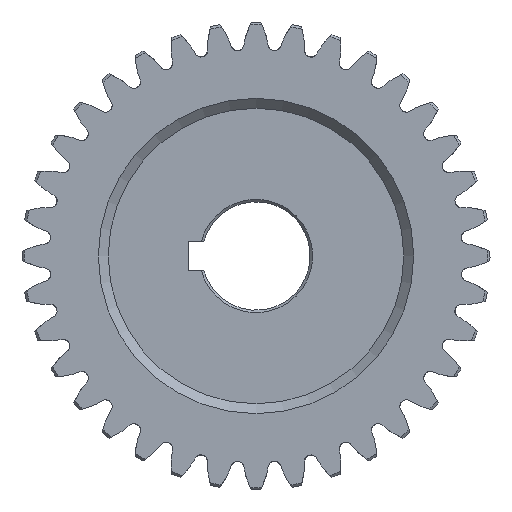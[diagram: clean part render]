
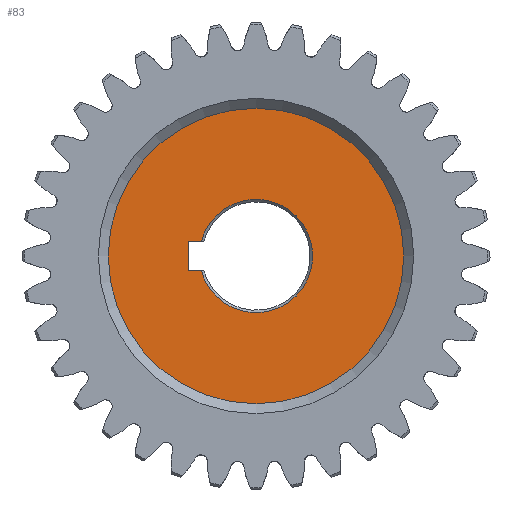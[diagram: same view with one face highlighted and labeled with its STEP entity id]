
A CAD part, left-side view. The second image highlights one B-rep face of the part: STEP entity #83.
In plain terms, the highlighted planar face has unit normal (-1, 0, 0).
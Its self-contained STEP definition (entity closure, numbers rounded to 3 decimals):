
#83=ADVANCED_FACE('',(#2828,#2830),#2832,.T.);
#2828=FACE_BOUND('',#2829,.T.);
#2829=EDGE_LOOP('',(#4824));
#2830=FACE_BOUND('',#2831,.T.);
#2831=EDGE_LOOP('',(#4825,#4826,#4827,#4828,#4829,#4830));
#2832=PLANE('',#2833);
#2833=AXIS2_PLACEMENT_3D('',#2834,#2835,#2836);
#2834=CARTESIAN_POINT('',(8.,0.,0.));
#2835=DIRECTION('',(-1.,-0.,-0.));
#2836=DIRECTION('',(0.,0.,-1.));
#4824=ORIENTED_EDGE('',*,*,#7763,.T.);
#4825=ORIENTED_EDGE('',*,*,#7764,.T.);
#4826=ORIENTED_EDGE('',*,*,#7756,.F.);
#4827=ORIENTED_EDGE('',*,*,#7765,.T.);
#4828=ORIENTED_EDGE('',*,*,#7766,.T.);
#4829=ORIENTED_EDGE('',*,*,#7767,.T.);
#4830=ORIENTED_EDGE('',*,*,#7768,.T.);
#7756=EDGE_CURVE('',#8656,#8651,#8658,.F.);
#7763=EDGE_CURVE('',#8670,#8670,#8671,.T.);
#7764=EDGE_CURVE('',#8672,#8651,#8673,.F.);
#7765=EDGE_CURVE('',#8656,#8674,#8675,.F.);
#7766=EDGE_CURVE('',#8674,#8676,#8677,.F.);
#7767=EDGE_CURVE('',#8676,#8678,#8679,.F.);
#7768=EDGE_CURVE('',#8678,#8672,#8680,.F.);
#8651=VERTEX_POINT('',#10159);
#8656=VERTEX_POINT('',#10172);
#8658=CIRCLE('',#10179,11.5);
#8670=VERTEX_POINT('',#10209);
#8671=CIRCLE('',#10210,30.);
#8672=VERTEX_POINT('',#10214);
#8673=LINE('',#10215,#10216);
#8674=VERTEX_POINT('',#10218);
#8675=LINE('',#10219,#10220);
#8676=VERTEX_POINT('',#10222);
#8677=CIRCLE('',#10223,0.25);
#8678=VERTEX_POINT('',#10227);
#8679=LINE('',#10228,#10229);
#8680=CIRCLE('',#10231,0.25);
#10159=CARTESIAN_POINT('',(8.,11.102,3.));
#10172=CARTESIAN_POINT('',(8.,11.102,-3.));
#10179=AXIS2_PLACEMENT_3D('',#10180,#10181,#10182);
#10180=CARTESIAN_POINT('',(8.,0.,0.));
#10181=DIRECTION('',(1.,0.,0.));
#10182=DIRECTION('',(0.,0.965,0.261));
#10209=CARTESIAN_POINT('',(8.,0.,-30.));
#10210=AXIS2_PLACEMENT_3D('',#10211,#10212,#10213);
#10211=CARTESIAN_POINT('',(8.,0.,0.));
#10212=DIRECTION('',(-1.,-0.,-0.));
#10213=DIRECTION('',(0.,0.,-1.));
#10214=CARTESIAN_POINT('',(8.,13.55,3.));
#10215=CARTESIAN_POINT('',(8.,11.102,3.));
#10216=VECTOR('',#10217,1.);
#10217=DIRECTION('',(0.,1.,0.));
#10218=CARTESIAN_POINT('',(8.,13.55,-3.));
#10219=CARTESIAN_POINT('',(8.,13.55,-3.));
#10220=VECTOR('',#10221,1.);
#10221=DIRECTION('',(0.,-1.,0.));
#10222=CARTESIAN_POINT('',(8.,13.8,-2.75));
#10223=AXIS2_PLACEMENT_3D('',#10224,#10225,#10226);
#10224=CARTESIAN_POINT('',(8.,13.55,-2.75));
#10225=DIRECTION('',(-1.,0.,0.));
#10226=DIRECTION('',(0.,1.,0.));
#10227=CARTESIAN_POINT('',(8.,13.8,2.75));
#10228=CARTESIAN_POINT('',(8.,13.8,2.75));
#10229=VECTOR('',#10230,1.);
#10230=DIRECTION('',(0.,0.,-1.));
#10231=AXIS2_PLACEMENT_3D('',#10232,#10233,#10234);
#10232=CARTESIAN_POINT('',(8.,13.55,2.75));
#10233=DIRECTION('',(-1.,0.,0.));
#10234=DIRECTION('',(0.,0.,1.));
